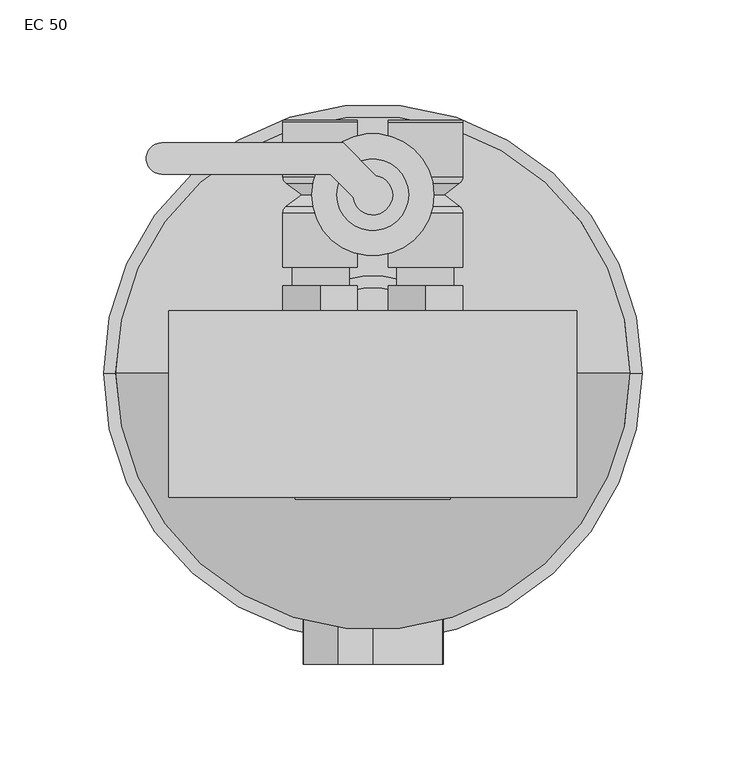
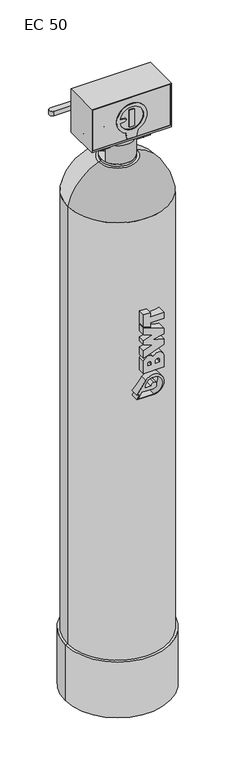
"""IFC4 building model written with IfcOpenShell, lengths in millimetres: flow terminal geometry, BWT_EC : EC 50."""

from ifc_helpers import new_model, si_unit, point, frame, frame_2d, origin, place, context, project, spatial, polyline, circle_curve, ellipse_curve, trimmed, segment, composite_curve, outline, extrude, faceted_brep, source, transform, mapped, element, save
from ifc_brep_helpers import plane_surface, cylinder_surface, revolved_surface, advanced_brep


def ec_50_949c9934(model_context):
    return source(origin(), model_context, "Body", "SolidModel", [
        advanced_brep(
        [(-25.4198693, 51.0, 1413.3500273), (-43.4198693, 51.0, 1413.3500273), (-7.4198693, 51.0, 1413.3500273), (-7.4198693, 94.749277, 1413.3500273), (-43.4198693, 94.749277, 1413.3500273), (-43.4198693, 121.0, 1413.3500273), (-7.4198693, 121.0, 1413.3500273), (-9.0198693, 91.549277, 1413.3500273), (-41.8198693, 91.549277, 1413.3500273), (-16.4189054, 86.0, 1413.3500273), (-34.4208333, 86.0, 1413.3500273), (-9.0198693, 80.450723, 1413.3500273), (-41.8198693, 80.450723, 1413.3500273), (-7.4198693, 77.250723, 1413.3500273), (-43.4198693, 77.250723, 1413.3500273), (-43.4198693, 122.0, 1413.3500273), (-7.4198693, 122.0, 1413.3500273)],
        [
            (0, 1),
            (1, 2, circle_curve(frame((-25.4198693, 51.0, 1413.3500273), z_axis=(0.0, -1.0, 0.0), x_axis=(-1.0, 0.0, 0.0)), 18.0)),
            (2, 0),
            (2, 1, circle_curve(frame((-25.4198693, 51.0, 1413.3500273), z_axis=(0.0, -1.0, 0.0), x_axis=(-1.0, 0.0, 0.0)), 18.0)),
            (3, 4, circle_curve(frame((-25.4198693, 94.749277, 1413.3500273), z_axis=(0.0, 1.0, 0.0), x_axis=(-1.0, 0.0, 0.0)), 18.0)),
            (4, 5),
            (5, 6, circle_curve(frame((-25.4198693, 121.0, 1413.3500273), z_axis=(0.0, -1.0, 0.0), x_axis=(-1.0, 0.0, 0.0)), 18.0)),
            (6, 3),
            (4, 3, circle_curve(frame((-25.4198693, 94.749277, 1413.3500273), z_axis=(0.0, 1.0, 0.0), x_axis=(-1.0, 0.0, 0.0)), 18.0)),
            (6, 5, circle_curve(frame((-25.4198693, 121.0, 1413.3500273), z_axis=(0.0, -1.0, 0.0), x_axis=(-1.0, 0.0, 0.0)), 18.0)),
            (3, 7, circle_curve(frame((-11.4198693, 94.749277, 1413.3500273), z_axis=(0.0, 0.0, -1.0), x_axis=(-1.0, 0.0, 0.0)), 4.0)),
            (7, 8, circle_curve(frame((-25.4198693, 91.549277, 1413.3500273), z_axis=(0.0, 1.0, 0.0), x_axis=(-1.0, 0.0, 0.0)), 16.4)),
            (8, 4, circle_curve(frame((-39.4198693, 94.749277, 1413.3500273), z_axis=(0.0, 0.0, -1.0), x_axis=(1.0, 0.0, 0.0)), 4.0)),
            (8, 7, circle_curve(frame((-25.4198693, 91.549277, 1413.3500273), z_axis=(0.0, 1.0, 0.0), x_axis=(-1.0, 0.0, 0.0)), 16.4)),
            (7, 9),
            (9, 10, circle_curve(frame((-25.4198693, 86.0, 1413.3500273), z_axis=(0.0, 1.0, 0.0), x_axis=(-1.0, 0.0, 0.0)), 9.000964)),
            (10, 8),
            (10, 9, circle_curve(frame((-25.4198693, 86.0, 1413.3500273), z_axis=(0.0, 1.0, 0.0), x_axis=(-1.0, 0.0, 0.0)), 9.000964)),
            (9, 11),
            (11, 12, circle_curve(frame((-25.4198693, 80.450723, 1413.3500273), z_axis=(0.0, 1.0, 0.0), x_axis=(-1.0, 0.0, 0.0)), 16.4)),
            (12, 10),
            (12, 11, circle_curve(frame((-25.4198693, 80.450723, 1413.3500273), z_axis=(0.0, 1.0, 0.0), x_axis=(-1.0, 0.0, 0.0)), 16.4)),
            (11, 13, circle_curve(frame((-11.4198693, 77.250723, 1413.3500273), z_axis=(0.0, 0.0, -1.0), x_axis=(-1.0, 0.0, 0.0)), 4.0)),
            (13, 14, circle_curve(frame((-25.4198693, 77.250723, 1413.3500273), z_axis=(0.0, 1.0, 0.0), x_axis=(-1.0, 0.0, 0.0)), 18.0)),
            (14, 12, circle_curve(frame((-39.4198693, 77.250723, 1413.3500273), z_axis=(0.0, 0.0, -1.0), x_axis=(1.0, 0.0, 0.0)), 4.0)),
            (14, 13, circle_curve(frame((-25.4198693, 77.250723, 1413.3500273), z_axis=(0.0, 1.0, 0.0), x_axis=(-1.0, 0.0, 0.0)), 18.0)),
            (1, 14),
            (13, 2),
            (15, 16, circle_curve(frame((-25.4198693, 122.0, 1413.3500273), z_axis=(0.0, 1.0, 0.0), x_axis=(-1.0, 0.0, 0.0)), 18.0)),
            (16, 15, circle_curve(frame((-25.4198693, 122.0, 1413.3500273), z_axis=(0.0, 1.0, 0.0), x_axis=(-1.0, 0.0, 0.0)), 18.0)),
            (15, 5),
            (6, 16),
        ],
        [
            plane_surface(frame((-25.4198693, 51.0, 1413.3500273), z_axis=(0.0, -1.0, 0.0), x_axis=(-1.0, 0.0, 0.0))),
            cylinder_surface(frame((-25.4198693, 152.9623853, 1413.3500273), z_axis=(0.0, -1.0, 0.0), x_axis=(-1.0, 0.0, 0.0)), 18.0),
            revolved_surface(trimmed(ellipse_curve(frame((-39.4198693, 94.749277, 1413.3500273), z_axis=(0.0, 0.0, 1.0), x_axis=(1.0, 0.0, 0.0)), 4.0, 4.0), [point((-43.4198693, 94.749277, 1413.3500273))], [point((-41.8198693, 91.549277, 1413.3500273))], True, "CARTESIAN"), (-25.4198693, 152.9623853, 1413.3500273), (0.0, -1.0, 0.0)),
            revolved_surface(polyline([(-41.8198693, 91.549277, 1413.3500273), (-34.4208333, 86.0, 1413.3500273)]), (-25.4198693, 152.9623853, 1413.3500273), (0.0, -1.0, 0.0)),
            revolved_surface(polyline([(-34.4208333, 86.0, 1413.3500273), (-41.8198693, 80.450723, 1413.3500273)]), (-25.4198693, 152.9623853, 1413.3500273), (0.0, -1.0, 0.0)),
            revolved_surface(trimmed(ellipse_curve(frame((-39.4198693, 77.250723, 1413.3500273), z_axis=(0.0, 0.0, 1.0), x_axis=(1.0, 0.0, 0.0)), 4.0, 4.0), [point((-41.8198693, 80.450723, 1413.3500273))], [point((-43.4198693, 77.250723, 1413.3500273))], True, "CARTESIAN"), (-25.4198693, 152.9623853, 1413.3500273), (0.0, -1.0, 0.0)),
            plane_surface(frame((-43.4198693, 122.0, 1413.3500273), z_axis=(0.0, 1.0, 0.0), x_axis=(0.0, 0.0, 1.0))),
            cylinder_surface(frame((-25.4198693, 121.0, 1413.3500273), z_axis=(0.0, 1.0, 0.0), x_axis=(-1.0, 0.0, 0.0)), 18.0),
        ],
        [
            (0, [[1, 2, 3]]),
            (0, [[-1, -3, 4]]),
            (1, [[5, 6, 7, 8]]),
            (1, [[-6, 9, -8, 10]]),
            (2, [[-5, 11, 12, 13]]),
            (2, [[-9, -13, 14, -11]]),
            (3, [[-12, 15, 16, 17]]),
            (3, [[-14, -17, 18, -15]]),
            (4, [[-16, 19, 20, 21]]),
            (4, [[-18, -21, 22, -19]]),
            (5, [[-20, 23, 24, 25]]),
            (5, [[-22, -25, 26, -23]]),
            (1, [[-2, 27, -24, 28]]),
            (1, [[-4, -28, -26, -27]]),
            (6, [[29, 30]]),
            (7, [[-29, 31, -10, 32]]),
            (7, [[-30, -32, -7, -31]]),
        ],
    ),
        advanced_brep(
        [(7.3803067, 122.0, 1413.3500273), (43.3803067, 122.0, 1413.3500273), (7.3803067, 121.0, 1413.3500273), (43.3803067, 121.0, 1413.3500273), (25.3803067, 51.0, 1413.3500273), (7.3803067, 51.0, 1413.3500273), (43.3803067, 51.0, 1413.3500273), (43.3803067, 94.749277, 1413.3500273), (7.3803067, 94.749277, 1413.3500273), (41.7803067, 91.549277, 1413.3500273), (8.9803067, 91.549277, 1413.3500273), (34.3812707, 86.0, 1413.3500273), (16.3793427, 86.0, 1413.3500273), (41.7803067, 80.450723, 1413.3500273), (8.9803067, 80.450723, 1413.3500273), (43.3803067, 77.250723, 1413.3500273), (7.3803067, 77.250723, 1413.3500273)],
        [
            (0, 1, circle_curve(frame((25.3803067, 122.0, 1413.3500273), z_axis=(0.0, 1.0, 0.0), x_axis=(-1.0, 0.0, 0.0)), 18.0)),
            (1, 0, circle_curve(frame((25.3803067, 122.0, 1413.3500273), z_axis=(0.0, 1.0, 0.0), x_axis=(-1.0, 0.0, 0.0)), 18.0)),
            (0, 2),
            (2, 3, circle_curve(frame((25.3803067, 121.0, 1413.3500273), z_axis=(0.0, 1.0, 0.0), x_axis=(-1.0, 0.0, 0.0)), 18.0)),
            (3, 1),
            (3, 2, circle_curve(frame((25.3803067, 121.0, 1413.3500273), z_axis=(0.0, 1.0, 0.0), x_axis=(-1.0, 0.0, 0.0)), 18.0)),
            (4, 5),
            (5, 6, circle_curve(frame((25.3803067, 51.0, 1413.3500273), z_axis=(0.0, -1.0, 0.0), x_axis=(-1.0, 0.0, 0.0)), 18.0)),
            (6, 4),
            (6, 5, circle_curve(frame((25.3803067, 51.0, 1413.3500273), z_axis=(0.0, -1.0, 0.0), x_axis=(-1.0, 0.0, 0.0)), 18.0)),
            (7, 8, circle_curve(frame((25.3803067, 94.749277, 1413.3500273), z_axis=(0.0, 1.0, 0.0), x_axis=(-1.0, 0.0, 0.0)), 18.0)),
            (8, 2),
            (3, 7),
            (8, 7, circle_curve(frame((25.3803067, 94.749277, 1413.3500273), z_axis=(0.0, 1.0, 0.0), x_axis=(-1.0, 0.0, 0.0)), 18.0)),
            (7, 9, circle_curve(frame((39.3803067, 94.749277, 1413.3500273), z_axis=(0.0, 0.0, -1.0), x_axis=(-1.0, 0.0, 0.0)), 4.0)),
            (9, 10, circle_curve(frame((25.3803067, 91.549277, 1413.3500273), z_axis=(0.0, 1.0, 0.0), x_axis=(-1.0, 0.0, 0.0)), 16.4)),
            (10, 8, circle_curve(frame((11.3803067, 94.749277, 1413.3500273), z_axis=(0.0, 0.0, -1.0), x_axis=(1.0, 0.0, 0.0)), 4.0)),
            (10, 9, circle_curve(frame((25.3803067, 91.549277, 1413.3500273), z_axis=(0.0, 1.0, 0.0), x_axis=(-1.0, 0.0, 0.0)), 16.4)),
            (9, 11),
            (11, 12, circle_curve(frame((25.3803067, 86.0, 1413.3500273), z_axis=(0.0, 1.0, 0.0), x_axis=(-1.0, 0.0, 0.0)), 9.000964)),
            (12, 10),
            (12, 11, circle_curve(frame((25.3803067, 86.0, 1413.3500273), z_axis=(0.0, 1.0, 0.0), x_axis=(-1.0, 0.0, 0.0)), 9.000964)),
            (11, 13),
            (13, 14, circle_curve(frame((25.3803067, 80.450723, 1413.3500273), z_axis=(0.0, 1.0, 0.0), x_axis=(-1.0, 0.0, 0.0)), 16.4)),
            (14, 12),
            (14, 13, circle_curve(frame((25.3803067, 80.450723, 1413.3500273), z_axis=(0.0, 1.0, 0.0), x_axis=(-1.0, 0.0, 0.0)), 16.4)),
            (13, 15, circle_curve(frame((39.3803067, 77.250723, 1413.3500273), z_axis=(0.0, 0.0, -1.0), x_axis=(-1.0, 0.0, 0.0)), 4.0)),
            (15, 16, circle_curve(frame((25.3803067, 77.250723, 1413.3500273), z_axis=(0.0, 1.0, 0.0), x_axis=(-1.0, 0.0, 0.0)), 18.0)),
            (16, 14, circle_curve(frame((11.3803067, 77.250723, 1413.3500273), z_axis=(0.0, 0.0, -1.0), x_axis=(1.0, 0.0, 0.0)), 4.0)),
            (16, 15, circle_curve(frame((25.3803067, 77.250723, 1413.3500273), z_axis=(0.0, 1.0, 0.0), x_axis=(-1.0, 0.0, 0.0)), 18.0)),
            (5, 16),
            (15, 6),
        ],
        [
            plane_surface(frame((-43.4198693, 122.0, 1413.3500273), z_axis=(0.0, 1.0, 0.0), x_axis=(0.0, 0.0, 1.0))),
            cylinder_surface(frame((25.3803067, 121.0, 1413.3500273), z_axis=(0.0, 1.0, 0.0), x_axis=(-1.0, 0.0, 0.0)), 18.0),
            plane_surface(frame((25.3803067, 51.0, 1413.3500273), z_axis=(0.0, -1.0, 0.0), x_axis=(-1.0, 0.0, 0.0))),
            cylinder_surface(frame((25.3803067, 152.9623853, 1413.3500273), z_axis=(0.0, -1.0, 0.0), x_axis=(-1.0, 0.0, 0.0)), 18.0),
            revolved_surface(trimmed(ellipse_curve(frame((11.3803067, 94.749277, 1413.3500273), z_axis=(0.0, 0.0, 1.0), x_axis=(1.0, 0.0, 0.0)), 4.0, 4.0), [point((7.3803067, 94.749277, 1413.3500273))], [point((8.9803067, 91.549277, 1413.3500273))], True, "CARTESIAN"), (25.3803067, 152.9623853, 1413.3500273), (0.0, -1.0, 0.0)),
            revolved_surface(polyline([(8.9803067, 91.549277, 1413.3500273), (16.3793427, 86.0, 1413.3500273)]), (25.3803067, 152.9623853, 1413.3500273), (0.0, -1.0, 0.0)),
            revolved_surface(polyline([(16.3793427, 86.0, 1413.3500273), (8.9803067, 80.450723, 1413.3500273)]), (25.3803067, 152.9623853, 1413.3500273), (0.0, -1.0, 0.0)),
            revolved_surface(trimmed(ellipse_curve(frame((11.3803067, 77.250723, 1413.3500273), z_axis=(0.0, 0.0, 1.0), x_axis=(1.0, 0.0, 0.0)), 4.0, 4.0), [point((8.9803067, 80.450723, 1413.3500273))], [point((7.3803067, 77.250723, 1413.3500273))], True, "CARTESIAN"), (25.3803067, 152.9623853, 1413.3500273), (0.0, -1.0, 0.0)),
        ],
        [
            (0, [[1, 2]]),
            (1, [[-1, 3, 4, 5]]),
            (1, [[-2, -5, 6, -3]]),
            (2, [[7, 8, 9]]),
            (2, [[-7, -9, 10]]),
            (3, [[11, 12, -6, 13]]),
            (3, [[-12, 14, -13, -4]]),
            (4, [[-11, 15, 16, 17]]),
            (4, [[-14, -17, 18, -15]]),
            (5, [[-16, 19, 20, 21]]),
            (5, [[-18, -21, 22, -19]]),
            (6, [[-20, 23, 24, 25]]),
            (6, [[-22, -25, 26, -23]]),
            (7, [[-24, 27, 28, 29]]),
            (7, [[-26, -29, 30, -27]]),
            (3, [[-8, 31, -28, 32]]),
            (3, [[-10, -32, -30, -31]]),
        ],
    ),
        extrude(outline(polyline([(96.2035118, -58.8371146), (-95.5486478, -58.8371146), (-95.5486478, -54.8371146), (96.2035118, -54.8371146), (96.2035118, -58.8371146)])), frame((0.0, 0.0, 1460.7939903), z_axis=(0.0, 0.0, 1.0), x_axis=(1.0, 0.0, 0.0)), (0.0, 0.0, 1.0), 106.7326791),
        extrude(outline(polyline([(12.4852191, 1452.6531008), (15.7188089, 1448.1206461), (13.4103829, 1443.0540479), (7.868367, 1442.5199043), (4.6347772, 1447.052359), (6.9432033, 1452.1189573), (12.4852191, 1452.6531008)])), frame((61.9425108, 0.0, 0.0), z_axis=(1.0, 0.0, 0.0), x_axis=(0.0, 1.0, 0.0)), (0.0, 0.0, 1.0), 8.5574892),
        advanced_brep(
        [(33.3436037, 10.077573, 1447.5846012), (33.3436037, 10.077573, 1456.2365171), (33.3436037, 10.077573, 1438.9326853), (61.9425108, 10.077573, 1438.9326853), (61.9425108, 10.077573, 1456.2365171), (61.9425108, 10.077573, 1447.5846012)],
        [
            (0, 1),
            (1, 2, circle_curve(frame((33.3436037, 10.077573, 1447.5846012), z_axis=(-1.0, 0.0, 0.0), x_axis=(0.0, 0.0, 1.0)), 8.6519159)),
            (2, 0),
            (2, 1, circle_curve(frame((33.3436037, 10.077573, 1447.5846012), z_axis=(-1.0, 0.0, 0.0), x_axis=(0.0, 0.0, 1.0)), 8.6519159)),
            (3, 4, circle_curve(frame((61.9425108, 10.077573, 1447.5846012), z_axis=(1.0, 0.0, 0.0), x_axis=(0.0, 0.0, 1.0)), 8.6519159)),
            (4, 5),
            (5, 3),
            (4, 3, circle_curve(frame((61.9425108, 10.077573, 1447.5846012), z_axis=(1.0, 0.0, 0.0), x_axis=(0.0, 0.0, 1.0)), 8.6519159)),
            (1, 4),
            (3, 2),
        ],
        [
            plane_surface(frame((33.3436037, 10.077573, 1447.5846012), z_axis=(-1.0, 0.0, 0.0), x_axis=(0.0, 0.0, 1.0))),
            plane_surface(frame((61.9425108, 10.077573, 1447.5846012), z_axis=(1.0, 0.0, 0.0), x_axis=(0.0, 0.0, 1.0))),
            cylinder_surface(frame((49.1268561, 10.077573, 1447.5846012), z_axis=(-1.0, 0.0, 0.0), x_axis=(0.0, 0.0, 1.0)), 8.6519159),
        ],
        [
            (0, [[1, 2, 3]]),
            (0, [[-3, 4, -1]]),
            (1, [[5, 6, 7]]),
            (1, [[8, -7, -6]]),
            (2, [[-2, 9, -5, 10]]),
            (2, [[-4, -10, -8, -9]]),
        ],
    ),
        advanced_brep(
        [(16.2211812, 10.077573, 1447.5846012), (16.2211812, 10.077573, 1452.5240423), (16.2211812, 10.077573, 1442.6451601), (33.3436037, 10.077573, 1442.6451601), (33.3436037, 10.077573, 1452.5240423), (33.3436037, 10.077573, 1447.5846012)],
        [
            (0, 1),
            (1, 2, circle_curve(frame((16.2211812, 10.077573, 1447.5846012), z_axis=(-1.0, 0.0, 0.0), x_axis=(0.0, 0.0, 1.0)), 4.9394411)),
            (2, 0),
            (2, 1, circle_curve(frame((16.2211812, 10.077573, 1447.5846012), z_axis=(-1.0, 0.0, 0.0), x_axis=(0.0, 0.0, 1.0)), 4.9394411)),
            (3, 4, circle_curve(frame((33.3436037, 10.077573, 1447.5846012), z_axis=(1.0, 0.0, 0.0), x_axis=(0.0, 0.0, 1.0)), 4.9394411)),
            (4, 5),
            (5, 3),
            (4, 3, circle_curve(frame((33.3436037, 10.077573, 1447.5846012), z_axis=(1.0, 0.0, 0.0), x_axis=(0.0, 0.0, 1.0)), 4.9394411)),
            (1, 4),
            (3, 2),
        ],
        [
            plane_surface(frame((16.2211812, 10.077573, 1447.5846012), z_axis=(-1.0, 0.0, 0.0), x_axis=(0.0, 0.0, 1.0))),
            plane_surface(frame((33.3436037, 10.077573, 1447.5846012), z_axis=(1.0, 0.0, 0.0), x_axis=(0.0, 0.0, 1.0))),
            cylinder_surface(frame((15.7194931, 10.077573, 1447.5846012), z_axis=(-1.0, 0.0, 0.0), x_axis=(0.0, 0.0, 1.0)), 4.9394411),
        ],
        [
            (0, [[1, 2, 3]]),
            (0, [[-3, 4, -1]]),
            (1, [[5, 6, 7]]),
            (1, [[8, -7, -6]]),
            (2, [[-2, 9, -5, 10]]),
            (2, [[-4, -10, -8, -9]]),
        ],
    ),
        extrude(outline(composite_curve([segment(polyline([(1480.0456784, -15.0), (1462.4054042, -11.7297557), (1462.4054042, 11.7297557), (1480.0456784, 15.0)]), True, "CONTINUOUS"), segment(trimmed(circle_curve(frame_2d((1514.4149961, 0.0)), 37.5), [point((1480.0456784, 15.0))], [point((1480.0456784, -15.0))], False, "CARTESIAN"), True, "CONTINUOUS")], self_intersect=False), holes=[composite_curve([segment(trimmed(circle_curve(frame_2d((1514.4149961, 0.0)), 29.0), [point((1540.9939352, 11.6))], [point((1487.8360571, 11.6))], True, "CARTESIAN"), True, "CONTINUOUS"), segment(trimmed(circle_curve(frame_2d((1514.4149961, 0.0)), 29.0), [point((1487.8360571, 11.6))], [point((1487.8360571, -11.6))], True, "CARTESIAN"), True, "CONTINUOUS"), segment(trimmed(circle_curve(frame_2d((1514.4149961, 0.0)), 29.0), [point((1487.8360571, -11.6))], [point((1508.7488042, -28.4410666))], True, "CARTESIAN"), True, "CONTINUOUS"), segment(polyline([(1508.7488042, -28.4410666), (1510.4149961, -17.2034068)]), True, "CONTINUOUS"), segment(trimmed(circle_curve(frame_2d((1514.4149961, -17.2034068)), 4.0), [point((1510.4149961, -17.2034068))], [point((1518.4149961, -17.2034068))], False, "CARTESIAN"), True, "CONTINUOUS"), segment(polyline([(1518.4149961, -17.2034068), (1520.081188, -28.4410666)]), True, "CONTINUOUS"), segment(trimmed(circle_curve(frame_2d((1514.4149961, 0.0)), 29.0), [point((1520.081188, -28.4410666))], [point((1540.9939352, -11.6))], True, "CARTESIAN"), True, "CONTINUOUS"), segment(trimmed(circle_curve(frame_2d((1514.4149961, 0.0)), 29.0), [point((1540.9939352, -11.6))], [point((1540.9939352, 11.6))], True, "CARTESIAN"), True, "CONTINUOUS")], self_intersect=False)]), frame((0.0, -61.1092325, 0.0), z_axis=(0.0, 1.0, 0.0), x_axis=(0.0, 0.0, 1.0)), (0.0, 0.0, 1.0), 6.272118),
        extrude(outline(composite_curve([segment(trimmed(circle_curve(frame_2d((1514.4149961, 0.0)), 22.5), [point((1536.1002446, 6.0))], [point((1536.1002446, -6.0))], False, "CARTESIAN"), True, "CONTINUOUS"), segment(polyline([(1536.1002446, -6.0), (1492.7297477, -6.0)]), True, "CONTINUOUS"), segment(trimmed(circle_curve(frame_2d((1514.4149961, 0.0)), 22.5), [point((1492.7297477, -6.0))], [point((1492.7297477, 6.0))], False, "CARTESIAN"), True, "CONTINUOUS"), segment(polyline([(1492.7297477, 6.0), (1536.1002446, 6.0)]), True, "CONTINUOUS")], self_intersect=False)), frame((0.0, -61.1092325, 0.0), z_axis=(0.0, 1.0, 0.0), x_axis=(0.0, 0.0, 1.0)), (0.0, 0.0, 1.0), 6.272118),
        faceted_brep([(-98.4688118, -60.0, 1570.0612416), (98.4688118, -60.0, 1570.0612416), (98.4688118, 30.0, 1570.0612416), (-98.4688118, 30.0, 1570.0612416), (-98.4688118, -60.0, 1456.8105054), (-98.4688118, 30.0, 1456.8105054), (98.4688118, 30.0, 1456.8105054), (98.4688118, -60.0, 1456.8105054), (-95.5486478, -60.0, 1567.5266694), (96.2035118, -60.0, 1567.5266694), (96.2035118, -60.0, 1460.7939903), (-95.5486478, -60.0, 1460.7939903), (-95.5486478, -54.8371146, 1567.5266694), (-95.5486478, -54.8371146, 1460.7939903), (96.2035118, -54.8371146, 1460.7939903), (96.2035118, -54.8371146, 1567.5266694)], [[[0, 1, 2, 3]], [[4, 5, 6, 7]], [[1, 0, 4, 7], [8, 9, 10, 11]], [[2, 1, 7, 6]], [[3, 2, 6, 5]], [[0, 3, 5, 4]], [[12, 13, 14, 15]], [[12, 15, 9, 8]], [[15, 14, 10, 9]], [[14, 13, 11, 10]], [[13, 12, 8, 11]]]),
        extrude(outline(composite_curve([segment(polyline([(10.077573, 1422.5580398), (3.6925169, 1416.1729837), (-13.5373709, 1416.1729837), (-19.922427, 1422.5580398)]), True, "CONTINUOUS"), segment(trimmed(circle_curve(frame_2d((-19.922427, 1427.4974809)), 4.9394411), [point((-19.922427, 1422.5580398))], [point((-19.922427, 1432.436922))], False, "CARTESIAN"), True, "CONTINUOUS"), segment(polyline([(-19.922427, 1432.436922), (-13.5373709, 1438.8219781), (3.6925169, 1438.8219781), (10.077573, 1432.436922)]), True, "CONTINUOUS"), segment(trimmed(circle_curve(frame_2d((10.077573, 1427.4974809)), 4.9394411), [point((10.077573, 1432.436922))], [point((10.077573, 1422.5580398))], False, "CARTESIAN"), True, "CONTINUOUS")], self_intersect=False)), frame((49.3489527, 0.0, 0.0), z_axis=(1.0, 0.0, 0.0), x_axis=(0.0, 1.0, 0.0)), (0.0, 0.0, 1.0), 18.1723162),
        extrude(outline(composite_curve([segment(trimmed(circle_curve(frame_2d((1413.29, -25.2442723)), 13.75), [point((1413.29, -11.4942723))], [point((1413.29, -38.9942723))], False, "CARTESIAN"), True, "CONTINUOUS"), segment(trimmed(circle_curve(frame_2d((1413.29, -25.2442723)), 13.75), [point((1413.29, -38.9942723))], [point((1413.29, -11.4942723))], False, "CARTESIAN"), True, "CONTINUOUS")], self_intersect=False)), frame((0.0, 42.0, 0.0), z_axis=(0.0, 1.0, 0.0), x_axis=(0.0, 0.0, 1.0)), (0.0, 0.0, 1.0), 9.0),
        advanced_brep(
        [(16.2211812, 10.077573, 1427.4974809), (16.2211812, 10.077573, 1432.436922), (16.2211812, 10.077573, 1422.5580398), (49.3489527, 10.077573, 1422.5580398), (49.3489527, 10.077573, 1432.436922), (49.3489527, 10.077573, 1427.4974809)],
        [
            (0, 1),
            (1, 2, circle_curve(frame((16.2211812, 10.077573, 1427.4974809), z_axis=(-1.0, 0.0, 0.0), x_axis=(0.0, 0.0, 1.0)), 4.9394411)),
            (2, 0),
            (2, 1, circle_curve(frame((16.2211812, 10.077573, 1427.4974809), z_axis=(-1.0, 0.0, 0.0), x_axis=(0.0, 0.0, 1.0)), 4.9394411)),
            (3, 4, circle_curve(frame((49.3489527, 10.077573, 1427.4974809), z_axis=(1.0, 0.0, 0.0), x_axis=(0.0, 0.0, 1.0)), 4.9394411)),
            (4, 5),
            (5, 3),
            (4, 3, circle_curve(frame((49.3489527, 10.077573, 1427.4974809), z_axis=(1.0, 0.0, 0.0), x_axis=(0.0, 0.0, 1.0)), 4.9394411)),
            (1, 4),
            (3, 2),
        ],
        [
            plane_surface(frame((16.2211812, 10.077573, 1427.4974809), z_axis=(-1.0, 0.0, 0.0), x_axis=(0.0, 0.0, 1.0))),
            plane_surface(frame((49.3489527, 10.077573, 1427.4974809), z_axis=(1.0, 0.0, 0.0), x_axis=(0.0, 0.0, 1.0))),
            cylinder_surface(frame((15.7194931, 10.077573, 1427.4974809), z_axis=(-1.0, 0.0, 0.0), x_axis=(0.0, 0.0, 1.0)), 4.9394411),
        ],
        [
            (0, [[1, 2, 3]]),
            (0, [[-3, 4, -1]]),
            (1, [[5, 6, 7]]),
            (1, [[8, -7, -6]]),
            (2, [[-2, 9, -5, 10]]),
            (2, [[-4, -10, -8, -9]]),
        ],
    ),
        extrude(outline(composite_curve([segment(trimmed(circle_curve(frame_2d((1413.29, 25.2244777)), 13.75), [point((1413.29, 38.9744777))], [point((1413.29, 11.4744777))], False, "CARTESIAN"), True, "CONTINUOUS"), segment(trimmed(circle_curve(frame_2d((1413.29, 25.2244777)), 13.75), [point((1413.29, 11.4744777))], [point((1413.29, 38.9744777))], False, "CARTESIAN"), True, "CONTINUOUS")], self_intersect=False)), frame((0.0, 42.0, 0.0), z_axis=(0.0, 1.0, 0.0), x_axis=(0.0, 0.0, 1.0)), (0.0, 0.0, 1.0), 9.0),
        advanced_brep(
        [(16.2211812, -19.922427, 1427.4974809), (16.2211812, -19.922427, 1432.436922), (16.2211812, -19.922427, 1422.5580398), (49.3489527, -19.922427, 1422.5580398), (49.3489527, -19.922427, 1432.436922), (49.3489527, -19.922427, 1427.4974809)],
        [
            (0, 1),
            (1, 2, circle_curve(frame((16.2211812, -19.922427, 1427.4974809), z_axis=(-1.0, 0.0, 0.0), x_axis=(0.0, 0.0, 1.0)), 4.9394411)),
            (2, 0),
            (2, 1, circle_curve(frame((16.2211812, -19.922427, 1427.4974809), z_axis=(-1.0, 0.0, 0.0), x_axis=(0.0, 0.0, 1.0)), 4.9394411)),
            (3, 4, circle_curve(frame((49.3489527, -19.922427, 1427.4974809), z_axis=(1.0, 0.0, 0.0), x_axis=(0.0, 0.0, 1.0)), 4.9394411)),
            (4, 5),
            (5, 3),
            (4, 3, circle_curve(frame((49.3489527, -19.922427, 1427.4974809), z_axis=(1.0, 0.0, 0.0), x_axis=(0.0, 0.0, 1.0)), 4.9394411)),
            (1, 4),
            (3, 2),
        ],
        [
            plane_surface(frame((16.2211812, -19.922427, 1427.4974809), z_axis=(-1.0, 0.0, 0.0), x_axis=(0.0, 0.0, 1.0))),
            plane_surface(frame((49.3489527, -19.922427, 1427.4974809), z_axis=(1.0, 0.0, 0.0), x_axis=(0.0, 0.0, 1.0))),
            cylinder_surface(frame((15.7194931, -19.922427, 1427.4974809), z_axis=(-1.0, 0.0, 0.0), x_axis=(0.0, 0.0, 1.0)), 4.9394411),
        ],
        [
            (0, [[1, 2, 3]]),
            (0, [[-3, 4, -1]]),
            (1, [[5, 6, 7]]),
            (1, [[8, -7, -6]]),
            (2, [[-2, 9, -5, 10]]),
            (2, [[-4, -10, -8, -9]]),
        ],
    ),
        extrude(outline(polyline([(-9.236693, 1418.6097607), (-5.3893163, 1427.0540912), (3.8473767, 1427.9443304), (9.236693, 1420.3902393), (5.3893163, 1411.9459088), (-3.8473767, 1411.0556696), (-9.236693, 1418.6097607)])), frame((-49.5, 0.0, 0.0), z_axis=(1.0, 0.0, 0.0), x_axis=(0.0, 1.0, 0.0)), (0.0, 0.0, 1.0), 4.5818966),
        advanced_brep(
        [(-44.9181034, 0.0, 1419.5), (-44.9181034, 0.0, 1430.25), (-44.9181034, 0.0, 1408.75), (-23.5189903, 0.0, 1408.75), (-23.5189903, 0.0, 1430.25), (-23.5189903, 0.0, 1419.5)],
        [
            (0, 1),
            (1, 2, circle_curve(frame((-44.9181034, 0.0, 1419.5), z_axis=(-1.0, 0.0, 0.0), x_axis=(0.0, 0.0, 1.0)), 10.75)),
            (2, 0),
            (2, 1, circle_curve(frame((-44.9181034, 0.0, 1419.5), z_axis=(-1.0, 0.0, 0.0), x_axis=(0.0, 0.0, 1.0)), 10.75)),
            (3, 4, circle_curve(frame((-23.5189903, 0.0, 1419.5), z_axis=(1.0, 0.0, 0.0), x_axis=(0.0, 0.0, 1.0)), 10.75)),
            (4, 5),
            (5, 3),
            (4, 3, circle_curve(frame((-23.5189903, 0.0, 1419.5), z_axis=(1.0, 0.0, 0.0), x_axis=(0.0, 0.0, 1.0)), 10.75)),
            (1, 4),
            (3, 2),
        ],
        [
            plane_surface(frame((-44.9181034, 0.0, 1419.5), z_axis=(-1.0, 0.0, 0.0), x_axis=(0.0, 0.0, 1.0))),
            plane_surface(frame((-23.5189903, 0.0, 1419.5), z_axis=(1.0, 0.0, 0.0), x_axis=(0.0, 0.0, 1.0))),
            cylinder_surface(frame((-54.704096, 0.0, 1419.5), z_axis=(-1.0, 0.0, 0.0), x_axis=(0.0, 0.0, 1.0)), 10.75),
        ],
        [
            (0, [[1, 2, 3]]),
            (0, [[-3, 4, -1]]),
            (1, [[5, 6, 7]]),
            (1, [[8, -7, -6]]),
            (2, [[-2, 9, -5, 10]]),
            (2, [[-4, -10, -8, -9]]),
        ],
    ),
        advanced_brep(
        [(25.4, 0.0, 1423.1171182), (25.4, 0.0, 1403.4628818), (25.4, 0.0, 1413.29), (25.4, 4.1055728, 1428.0364678), (25.4, 4.1055728, 1398.5435322), (25.4, 22.0, 1431.29), (25.4, 22.0, 1395.29), (25.4, 42.0, 1431.29), (25.4, 42.0, 1395.29), (25.4, 42.0, 1413.29)],
        [
            (0, 1, circle_curve(frame((25.4, 0.0, 1413.29), z_axis=(0.0, -1.0, 0.0), x_axis=(0.0, 0.0, -1.0)), 9.8271182)),
            (1, 2),
            (2, 0),
            (1, 0, circle_curve(frame((25.4, 0.0, 1413.29), z_axis=(0.0, -1.0, 0.0), x_axis=(0.0, 0.0, -1.0)), 9.8271182)),
            (3, 4, circle_curve(frame((25.4, 4.1055728, 1413.29), z_axis=(0.0, -1.0, 0.0), x_axis=(0.0, 0.0, -1.0)), 14.7464678)),
            (4, 1, circle_curve(frame((25.4, 5.0, 1403.4628818), z_axis=(-1.0, 0.0, 0.0), x_axis=(0.0, -1.0, 0.0)), 5.0)),
            (0, 3, circle_curve(frame((25.4, 5.0, 1423.1171182), z_axis=(-1.0, 0.0, 0.0), x_axis=(0.0, -1.0, 0.0)), 5.0)),
            (4, 3, circle_curve(frame((25.4, 4.1055728, 1413.29), z_axis=(0.0, -1.0, 0.0), x_axis=(0.0, 0.0, -1.0)), 14.7464678)),
            (5, 6, circle_curve(frame((25.4, 22.0, 1413.29), z_axis=(0.0, -1.0, 0.0), x_axis=(0.0, 0.0, -1.0)), 18.0)),
            (6, 4),
            (3, 5),
            (6, 5, circle_curve(frame((25.4, 22.0, 1413.29), z_axis=(0.0, -1.0, 0.0), x_axis=(0.0, 0.0, -1.0)), 18.0)),
            (7, 8, circle_curve(frame((25.4, 42.0, 1413.29), z_axis=(0.0, -1.0, 0.0), x_axis=(0.0, 0.0, -1.0)), 18.0)),
            (8, 6),
            (5, 7),
            (8, 7, circle_curve(frame((25.4, 42.0, 1413.29), z_axis=(0.0, -1.0, 0.0), x_axis=(0.0, 0.0, -1.0)), 18.0)),
            (9, 8),
            (7, 9),
        ],
        [
            plane_surface(frame((25.4, 0.0, 1413.29), z_axis=(0.0, -1.0, 0.0), x_axis=(0.0, 0.0, -1.0))),
            revolved_surface(trimmed(ellipse_curve(frame((25.4, 5.0, 1403.4628818), z_axis=(1.0, 0.0, 0.0), x_axis=(0.0, -1.0, 0.0)), 5.0, 5.0), [point((25.4, 0.0, 1403.4628818))], [point((25.4, 4.1055728, 1398.5435322))], True, "CARTESIAN"), (25.4, 0.0, 1413.29), (0.0, 1.0, 0.0)),
            revolved_surface(polyline([(25.4, 4.1055728, 1398.5435322), (25.4, 22.0, 1395.29)]), (25.4, 0.0, 1413.29), (0.0, 1.0, 0.0)),
            cylinder_surface(frame((25.4, 0.0, 1413.29), z_axis=(0.0, 1.0, 0.0), x_axis=(0.0, 0.0, -1.0)), 18.0),
            plane_surface(frame((25.4, 42.0, 1413.29), z_axis=(0.0, 1.0, 0.0), x_axis=(0.0, 0.0, -1.0))),
        ],
        [
            (0, [[1, 2, 3]]),
            (0, [[4, -3, -2]]),
            (1, [[5, 6, -1, 7]]),
            (1, [[8, -7, -4, -6]]),
            (2, [[9, 10, -5, 11]]),
            (2, [[12, -11, -8, -10]]),
            (3, [[13, 14, -9, 15]]),
            (3, [[16, -15, -12, -14]]),
            (4, [[17, -13, 18]]),
            (4, [[-18, -16, -17]]),
        ],
    ),
        advanced_brep(
        [(-25.4798264, 0.0, 1423.1171182), (-25.4798264, 0.0, 1403.4628818), (-25.4798264, 0.0, 1413.29), (-25.4798264, 4.1055728, 1428.0364678), (-25.4798264, 4.1055728, 1398.5435322), (-25.4798264, 22.0, 1431.29), (-25.4798264, 22.0, 1395.29), (-25.4798264, 42.0, 1431.29), (-25.4798264, 42.0, 1395.29), (-25.4798264, 42.0, 1413.29)],
        [
            (0, 1, circle_curve(frame((-25.4798264, 0.0, 1413.29), z_axis=(0.0, -1.0, 0.0), x_axis=(0.0, 0.0, -1.0)), 9.8271182)),
            (1, 2),
            (2, 0),
            (1, 0, circle_curve(frame((-25.4798264, 0.0, 1413.29), z_axis=(0.0, -1.0, 0.0), x_axis=(0.0, 0.0, -1.0)), 9.8271182)),
            (3, 4, circle_curve(frame((-25.4798264, 4.1055728, 1413.29), z_axis=(0.0, -1.0, 0.0), x_axis=(0.0, 0.0, -1.0)), 14.7464678)),
            (4, 1, circle_curve(frame((-25.4798264, 5.0, 1403.4628818), z_axis=(-1.0, 0.0, 0.0), x_axis=(0.0, -1.0, 0.0)), 5.0)),
            (0, 3, circle_curve(frame((-25.4798264, 5.0, 1423.1171182), z_axis=(-1.0, 0.0, 0.0), x_axis=(0.0, -1.0, 0.0)), 5.0)),
            (4, 3, circle_curve(frame((-25.4798264, 4.1055728, 1413.29), z_axis=(0.0, -1.0, 0.0), x_axis=(0.0, 0.0, -1.0)), 14.7464678)),
            (5, 6, circle_curve(frame((-25.4798264, 22.0, 1413.29), z_axis=(0.0, -1.0, 0.0), x_axis=(0.0, 0.0, -1.0)), 18.0)),
            (6, 4),
            (3, 5),
            (6, 5, circle_curve(frame((-25.4798264, 22.0, 1413.29), z_axis=(0.0, -1.0, 0.0), x_axis=(0.0, 0.0, -1.0)), 18.0)),
            (7, 8, circle_curve(frame((-25.4798264, 42.0, 1413.29), z_axis=(0.0, -1.0, 0.0), x_axis=(0.0, 0.0, -1.0)), 18.0)),
            (8, 6),
            (5, 7),
            (8, 7, circle_curve(frame((-25.4798264, 42.0, 1413.29), z_axis=(0.0, -1.0, 0.0), x_axis=(0.0, 0.0, -1.0)), 18.0)),
            (9, 8),
            (7, 9),
        ],
        [
            plane_surface(frame((-25.4798264, 0.0, 1413.29), z_axis=(0.0, -1.0, 0.0), x_axis=(0.0, 0.0, -1.0))),
            revolved_surface(trimmed(ellipse_curve(frame((-25.4798264, 5.0, 1403.4628818), z_axis=(1.0, 0.0, 0.0), x_axis=(0.0, -1.0, 0.0)), 5.0, 5.0), [point((-25.4798264, 0.0, 1403.4628818))], [point((-25.4798264, 4.1055728, 1398.5435322))], True, "CARTESIAN"), (-25.4798264, 0.0, 1413.29), (0.0, 1.0, 0.0)),
            revolved_surface(polyline([(-25.4798264, 4.1055728, 1398.5435322), (-25.4798264, 22.0, 1395.29)]), (-25.4798264, 0.0, 1413.29), (0.0, 1.0, 0.0)),
            cylinder_surface(frame((-25.4798264, 0.0, 1413.29), z_axis=(0.0, 1.0, 0.0), x_axis=(0.0, 0.0, -1.0)), 18.0),
            plane_surface(frame((-25.4798264, 42.0, 1413.29), z_axis=(0.0, 1.0, 0.0), x_axis=(0.0, 0.0, -1.0))),
        ],
        [
            (0, [[1, 2, 3]]),
            (0, [[4, -3, -2]]),
            (1, [[5, 6, -1, 7]]),
            (1, [[8, -7, -4, -6]]),
            (2, [[9, 10, -5, 11]]),
            (2, [[12, -11, -8, -10]]),
            (3, [[13, 14, -9, 15]]),
            (3, [[16, -15, -12, -14]]),
            (4, [[17, -13, 18]]),
            (4, [[-18, -16, -17]]),
        ],
    ),
        advanced_brep(
        [(-101.8933983, 96.0, 1472.29), (-20.6066017, 96.0, 1472.29), (-9.4491479, 84.8425462, 1472.29), (9.4986096, 85.8374721, 1472.29), (1.3684027, 95.238199, 1472.29), (-14.3933983, 111.0, 1472.29), (-101.8933983, 111.0, 1472.29), (-101.8933983, 96.0, 1460.79), (-101.8933983, 111.0, 1460.79), (-14.3933983, 111.0, 1460.79), (1.3684027, 95.238199, 1460.79), (-9.5013904, 85.8374721, 1460.79), (-9.4491479, 84.8425462, 1460.79), (-20.6066017, 96.0, 1460.79), (-9.5013904, 85.8374721, 1448.2898717), (9.4986096, 85.8374721, 1448.2898717)],
        [
            (0, 1),
            (1, 2),
            (2, 3, circle_curve(frame((-0.0013904, 85.8374721, 1472.29), z_axis=(0.0, 0.0, 1.0), x_axis=(1.0, 0.0, 0.0)), 9.5)),
            (3, 4, circle_curve(frame((-0.0013904, 85.8374721, 1472.29), z_axis=(0.0, 0.0, 1.0), x_axis=(1.0, 0.0, 0.0)), 9.5)),
            (4, 5),
            (5, 6),
            (6, 0, circle_curve(frame((-101.8933983, 103.5, 1472.29), z_axis=(0.0, 0.0, 1.0), x_axis=(1.0, 0.0, 0.0)), 7.5)),
            (7, 8, circle_curve(frame((-101.8933983, 103.5, 1460.79), z_axis=(0.0, 0.0, -1.0), x_axis=(1.0, 0.0, 0.0)), 7.5)),
            (8, 9),
            (9, 10),
            (10, 11, circle_curve(frame((-0.0013904, 85.8374721, 1460.79), z_axis=(0.0, 0.0, 1.0), x_axis=(1.0, 0.0, 0.0)), 9.5)),
            (11, 12, circle_curve(frame((-0.0013904, 85.8374721, 1460.79), z_axis=(0.0, 0.0, 1.0), x_axis=(1.0, 0.0, 0.0)), 9.5)),
            (12, 13),
            (13, 7),
            (0, 7),
            (13, 1),
            (12, 2),
            (4, 10),
            (9, 5),
            (8, 6),
            (14, 15, circle_curve(frame((-0.0013904, 85.8374721, 1448.2898717), z_axis=(0.0, 0.0, -1.0), x_axis=(1.0, 0.0, 0.0)), 9.5)),
            (15, 14, circle_curve(frame((-0.0013904, 85.8374721, 1448.2898717), z_axis=(0.0, 0.0, -1.0), x_axis=(1.0, 0.0, 0.0)), 9.5)),
            (15, 3),
            (11, 14),
        ],
        [
            plane_surface(frame((-101.8933983, 96.0, 1472.29), z_axis=(0.0, 0.0, 1.0), x_axis=(1.0, 0.0, 0.0))),
            plane_surface(frame((-101.8933983, 96.0, 1460.79), z_axis=(0.0, 0.0, -1.0), x_axis=(-1.0, 0.0, 0.0))),
            plane_surface(frame((-101.8933983, 96.0, 1472.29), z_axis=(0.0, -1.0, 0.0), x_axis=(0.0, 0.0, -1.0))),
            plane_surface(frame((-20.6066017, 96.0, 1472.29), z_axis=(-0.7071067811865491, -0.707106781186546, 0.0), x_axis=(0.0, 0.0, -1.0))),
            plane_surface(frame((1.3684027, 95.238199, 1472.29), z_axis=(0.7071067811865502, 0.7071067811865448, 0.0), x_axis=(0.0, 0.0, -1.0))),
            plane_surface(frame((-14.3933983, 111.0, 1472.29), z_axis=(0.0, 1.0, 0.0), x_axis=(0.0, 0.0, -1.0))),
            cylinder_surface(frame((-101.8933983, 103.5, 1460.79), z_axis=(0.0, 0.0, 1.0), x_axis=(1.0, 0.0, 0.0)), 7.5),
            plane_surface(frame((9.4986096, 85.8374721, 1448.2898717), z_axis=(0.0, 0.0, -1.0), x_axis=(0.0, -1.0, 0.0))),
            cylinder_surface(frame((-0.0013904, 85.8374721, 1448.2898717), z_axis=(0.0, 0.0, 1.0), x_axis=(1.0, 0.0, 0.0)), 9.5),
        ],
        [
            (0, [[1, 2, 3, 4, 5, 6, 7]]),
            (1, [[8, 9, 10, 11, 12, 13, 14]]),
            (2, [[-1, 15, -14, 16]]),
            (3, [[-2, -16, -13, 17]]),
            (4, [[-5, 18, -10, 19]]),
            (5, [[-6, -19, -9, 20]]),
            (6, [[-7, -20, -8, -15]]),
            (7, [[21, 22]]),
            (8, [[-22, 23, -3, -17, -12, 24]]),
            (8, [[-21, -24, -11, -18, -4, -23]]),
        ],
    ),
        extrude(outline(composite_curve([segment(trimmed(circle_curve(frame_2d((-0.0624721, 86.03125)), 17.3), [point((-17.3624721, 86.03125))], [point((17.2375279, 86.03125))], False, "CARTESIAN"), True, "CONTINUOUS"), segment(trimmed(circle_curve(frame_2d((-0.0624721, 86.03125)), 17.3), [point((17.2375279, 86.03125))], [point((-17.3624721, 86.03125))], False, "CARTESIAN"), True, "CONTINUOUS")], self_intersect=False)), frame((0.0, 0.0, 1434.29), z_axis=(0.0, 0.0, 1.0), x_axis=(1.0, 0.0, 0.0)), (0.0, 0.0, 1.0), 13.9998717),
        extrude(outline(composite_curve([segment(trimmed(circle_curve(frame_2d((0.0, 86.03125)), 29.5), [point((-29.5, 86.03125))], [point((29.5, 86.03125))], False, "CARTESIAN"), True, "CONTINUOUS"), segment(trimmed(circle_curve(frame_2d((0.0, 86.03125)), 29.5), [point((29.5, 86.03125))], [point((-29.5, 86.03125))], False, "CARTESIAN"), True, "CONTINUOUS")], self_intersect=False)), frame((0.0, 0.0, 1392.29), z_axis=(0.0, 0.0, 1.0), x_axis=(1.0, 0.0, 0.0)), (0.0, 0.0, 1.0), 3.0),
        extrude(outline(composite_curve([segment(trimmed(circle_curve(frame_2d((0.0, 86.03125)), 29.5), [point((-29.5, 86.03125))], [point((29.5, 86.03125))], False, "CARTESIAN"), True, "CONTINUOUS"), segment(trimmed(circle_curve(frame_2d((0.0, 86.03125)), 29.5), [point((29.5, 86.03125))], [point((-29.5, 86.03125))], False, "CARTESIAN"), True, "CONTINUOUS")], self_intersect=False)), frame((0.0, 0.0, 1431.29), z_axis=(0.0, 0.0, 1.0), x_axis=(1.0, 0.0, 0.0)), (0.0, 0.0, 1.0), 3.0),
        advanced_brep(
        [(-33.4319828, -12.0906736, 1438.0), (-19.7896662, -7.1252765, 1438.0), (-19.7896662, -7.1252765, 1384.5), (-38.1304459, -13.8007743, 1384.5), (-38.1304459, -13.8007743, 1433.0), (33.4319828, -12.0906736, 1438.0), (38.1304459, -13.8007743, 1433.0), (38.1304459, -13.8007743, 1384.5), (19.7896662, -7.1252765, 1384.5), (19.7896662, -7.1252765, 1438.0)],
        [
            (0, 1),
            (1, 2),
            (2, 3),
            (3, 4),
            (4, 0, circle_curve(frame((-33.4319828, -12.0906736, 1433.0), z_axis=(-0.3420201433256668, 0.9396926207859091, 0.0), x_axis=(-0.9396926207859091, -0.3420201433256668, 0.0)), 5.0)),
            (5, 6, circle_curve(frame((33.4319828, -12.0906736, 1433.0), z_axis=(0.34202014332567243, 0.939692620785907, 0.0), x_axis=(0.939692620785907, -0.34202014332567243, 0.0)), 5.0)),
            (6, 7),
            (7, 8),
            (8, 9),
            (9, 5),
            (5, 0, circle_curve(frame((0.0, 0.077573, 1438.0), z_axis=(0.0, 0.0, -1.0), x_axis=(-0.9396926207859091, -0.3420201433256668, 0.0)), 35.577573)),
            (4, 6, circle_curve(frame((0.0, 0.077573, 1433.0), z_axis=(0.0, 0.0, 1.0), x_axis=(-0.9396926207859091, -0.3420201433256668, 0.0)), 40.577573)),
            (3, 7, circle_curve(frame((0.0, 0.077573, 1384.5), z_axis=(0.0, 0.0, 1.0), x_axis=(-0.9396926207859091, -0.3420201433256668, 0.0)), 40.577573)),
            (2, 8, circle_curve(frame((0.0, 0.077573, 1384.5), z_axis=(0.0, 0.0, 1.0), x_axis=(-0.9396926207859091, -0.3420201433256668, 0.0)), 21.0597229)),
            (1, 9, circle_curve(frame((0.0, 0.077573, 1438.0), z_axis=(0.0, 0.0, 1.0), x_axis=(-0.9396926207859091, -0.3420201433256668, 0.0)), 21.0597229)),
        ],
        [
            plane_surface(frame((0.0, 0.077573, 1384.5), z_axis=(-0.3420201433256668, 0.9396926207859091, 0.0), x_axis=(-0.9396926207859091, -0.3420201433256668, 0.0))),
            plane_surface(frame((0.0, 0.077573, 1384.5), z_axis=(0.3420201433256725, 0.939692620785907, 0.0), x_axis=(0.939692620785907, -0.3420201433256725, 0.0))),
            revolved_surface(trimmed(ellipse_curve(frame((-33.4319828, -12.0906736, 1433.0), z_axis=(-0.3420201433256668, 0.9396926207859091, 0.0), x_axis=(-0.9396926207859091, -0.3420201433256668, 0.0)), 5.0, 5.0), [point((-38.1304459, -13.8007743, 1433.0))], [point((-33.4319828, -12.0906736, 1438.0))], True, "CARTESIAN"), (0.0, 0.077573, 1384.5), (0.0, 0.0, 1.0)),
            cylinder_surface(frame((0.0, 0.077573, 1384.5), z_axis=(0.0, 0.0, 1.0), x_axis=(-0.9396926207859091, -0.3420201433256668, 0.0)), 40.577573),
            plane_surface(frame((0.0, 0.077573, 1384.5), z_axis=(0.0, 0.0, -1.0), x_axis=(-0.9396926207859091, -0.3420201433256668, 0.0))),
            revolved_surface(polyline([(-19.789666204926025, -7.125276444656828, 1438.0), (-19.789666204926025, -7.125276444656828, 1384.5)]), (0.0, 0.077573, 1384.5), (0.0, 0.0, 1.0)),
            plane_surface(frame((0.0, 0.077573, 1438.0), z_axis=(0.0, 0.0, 1.0), x_axis=(-0.9396926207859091, -0.3420201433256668, 0.0))),
        ],
        [
            (0, [[1, 2, 3, 4, 5]]),
            (1, [[6, 7, 8, 9, 10]]),
            (2, [[11, -5, 12, -6]]),
            (3, [[-12, -4, 13, -7]]),
            (4, [[-13, -3, 14, -8]]),
            (5, [[-14, -2, 15, -9]]),
            (6, [[-15, -1, -11, -10]]),
        ],
    ),
        extrude(outline(composite_curve([segment(trimmed(circle_curve(frame_2d((0.0, 0.077573)), 41.0), [point((-41.0, 0.077573))], [point((41.0, 0.077573))], False, "CARTESIAN"), True, "CONTINUOUS"), segment(trimmed(circle_curve(frame_2d((0.0, 0.077573)), 41.0), [point((41.0, 0.077573))], [point((-41.0, 0.077573))], False, "CARTESIAN"), True, "CONTINUOUS")], self_intersect=False)), frame((0.0, 0.0, 1379.0), z_axis=(0.0, 0.0, 1.0), x_axis=(1.0, 0.0, 0.0)), (0.0, 0.0, 1.0), 5.5),
        extrude(outline(composite_curve([segment(trimmed(circle_curve(frame_2d((0.0, -0.0010747)), 25.0), [point((-25.0, -0.0010747))], [point((25.0, -0.0010747))], False, "CARTESIAN"), True, "CONTINUOUS"), segment(trimmed(circle_curve(frame_2d((0.0, -0.0010747)), 25.0), [point((25.0, -0.0010747))], [point((-25.0, -0.0010747))], False, "CARTESIAN"), True, "CONTINUOUS")], self_intersect=False)), frame((0.0, 0.0, 1384.5), z_axis=(0.0, 0.0, 1.0), x_axis=(1.0, 0.0, 0.0)), (0.0, 0.0, 1.0), 72.3105054),
        advanced_brep(
        [(-124.001421, 0.0, 1290.0644499), (124.001421, 0.0, 1290.0644499), (0.0, 0.0, 1290.0644499), (0.0, 0.0, 1379.0), (47.0, 0.0, 1379.0), (-47.0, 0.0, 1379.0)],
        [
            (0, 1, circle_curve(frame((0.0, 0.0, 1290.0644499), z_axis=(0.0, 0.0, -1.0), x_axis=(1.0, 0.0, 0.0)), 124.001421)),
            (1, 2),
            (2, 0),
            (1, 0, circle_curve(frame((0.0, 0.0, 1290.0644499), z_axis=(0.0, 0.0, -1.0), x_axis=(1.0, 0.0, 0.0)), 124.001421)),
            (3, 4),
            (4, 5, circle_curve(frame((0.0, 0.0, 1379.0), z_axis=(0.0, 0.0, 1.0), x_axis=(1.0, 0.0, 0.0)), 47.0)),
            (5, 3),
            (5, 4, circle_curve(frame((0.0, 0.0, 1379.0), z_axis=(0.0, 0.0, 1.0), x_axis=(1.0, 0.0, 0.0)), 47.0)),
            (4, 1, circle_curve(frame((6.1708082, 0.0, 1265.8474842), z_axis=(0.0, 1.0, 0.0), x_axis=(1.0, 0.0, 0.0)), 120.2934526)),
            (0, 5, circle_curve(frame((-6.1708082, 0.0, 1265.8474842), z_axis=(0.0, 1.0, 0.0), x_axis=(-1.0, 0.0, 0.0)), 120.2934526)),
        ],
        [
            plane_surface(frame((0.0, 0.0, 1290.0644499), z_axis=(0.0, 0.0, -1.0), x_axis=(1.0, 0.0, 0.0))),
            plane_surface(frame((0.0, 0.0, 1379.0), z_axis=(0.0, 0.0, 1.0), x_axis=(1.0, 0.0, 0.0))),
            revolved_surface(trimmed(ellipse_curve(frame((6.1708082, 0.0, 1265.8474842), z_axis=(0.0, -1.0, 0.0), x_axis=(1.0, 0.0, 0.0)), 120.2934526, 120.2934526), [point((124.001421, 0.0, 1290.0644499))], [point((47.0, 0.0, 1379.0))], True, "CARTESIAN"), (0.0, 0.0, 1290.1144499), (0.0, 0.0, 1.0)),
        ],
        [
            (0, [[1, 2, 3]]),
            (0, [[4, -3, -2]]),
            (1, [[5, 6, 7]]),
            (1, [[-7, 8, -5]]),
            (2, [[-6, 9, -1, 10]]),
            (2, [[-8, -10, -4, -9]]),
        ],
    ),
        advanced_brep(
        [(130.0, 0.0, 146.0), (-130.0, 0.0, 146.0), (0.0, 0.0, 146.0), (130.0, 0.0, 0.0), (-130.0, 0.0, 0.0), (0.0, 0.0, 0.0)],
        [
            (0, 1, circle_curve(frame((0.0, 0.0, 146.0), z_axis=(0.0, 0.0, 1.0), x_axis=(-1.0, 0.0, 0.0)), 130.0)),
            (1, 2),
            (2, 0),
            (1, 0, circle_curve(frame((0.0, 0.0, 146.0), z_axis=(0.0, 0.0, 1.0), x_axis=(-1.0, 0.0, 0.0)), 130.0)),
            (3, 4, circle_curve(frame((0.0, 0.0, 0.0), z_axis=(0.0, 0.0, 1.0), x_axis=(-1.0, 0.0, 0.0)), 130.0)),
            (4, 1),
            (0, 3),
            (4, 3, circle_curve(frame((0.0, 0.0, 0.0), z_axis=(0.0, 0.0, 1.0), x_axis=(-1.0, 0.0, 0.0)), 130.0)),
            (5, 4),
            (3, 5),
        ],
        [
            plane_surface(frame((0.0, 0.0, 146.0), z_axis=(0.0, 0.0, 1.0), x_axis=(-1.0, 0.0, 0.0))),
            cylinder_surface(frame((0.0, 0.0, 2672.645114), z_axis=(0.0, 0.0, -1.0), x_axis=(-1.0, 0.0, 0.0)), 130.0),
            plane_surface(frame((0.0, 0.0, 0.0), z_axis=(0.0, 0.0, -1.0), x_axis=(-1.0, 0.0, 0.0))),
        ],
        [
            (0, [[1, 2, 3]]),
            (0, [[4, -3, -2]]),
            (1, [[5, 6, -1, 7]]),
            (1, [[8, -7, -4, -6]]),
            (2, [[9, -5, 10]]),
            (2, [[-10, -8, -9]]),
        ],
    ),
        advanced_brep(
        [(124.0, 0.0, 1290.1144499), (-124.0, 0.0, 1290.1144499), (0.0, 0.0, 1290.1144499), (124.0, 0.0, 146.0), (-124.0, 0.0, 146.0), (0.0, 0.0, 146.0)],
        [
            (0, 1, circle_curve(frame((0.0, 0.0, 1290.1144499), z_axis=(0.0, 0.0, 1.0), x_axis=(-1.0, 0.0, 0.0)), 124.0)),
            (1, 2),
            (2, 0),
            (1, 0, circle_curve(frame((0.0, 0.0, 1290.1144499), z_axis=(0.0, 0.0, 1.0), x_axis=(-1.0, 0.0, 0.0)), 124.0)),
            (3, 4, circle_curve(frame((0.0, 0.0, 146.0), z_axis=(0.0, 0.0, 1.0), x_axis=(-1.0, 0.0, 0.0)), 124.0)),
            (4, 1),
            (0, 3),
            (4, 3, circle_curve(frame((0.0, 0.0, 146.0), z_axis=(0.0, 0.0, 1.0), x_axis=(-1.0, 0.0, 0.0)), 124.0)),
            (5, 4),
            (3, 5),
        ],
        [
            plane_surface(frame((0.0, 0.0, 1290.1144499), z_axis=(0.0, 0.0, 1.0), x_axis=(-1.0, 0.0, 0.0))),
            cylinder_surface(frame((0.0, 0.0, 2672.645114), z_axis=(0.0, 0.0, -1.0), x_axis=(-1.0, 0.0, 0.0)), 124.0),
            plane_surface(frame((0.0, 0.0, 146.0), z_axis=(0.0, 0.0, -1.0), x_axis=(-1.0, 0.0, 0.0))),
        ],
        [
            (0, [[1, 2, 3]]),
            (0, [[4, -3, -2]]),
            (1, [[5, 6, -1, 7]]),
            (1, [[8, -7, -4, -6]]),
            (2, [[9, -5, 10]]),
            (2, [[-10, -8, -9]]),
        ],
    ),
        extrude(outline(composite_curve([segment(polyline([(836.9999792, -33.6000005), (836.9999792, 9.8870192)]), True, "CONTINUOUS"), segment(trimmed(circle_curve(frame_2d((863.0964441, 7.941375)), 26.168894), [point((836.9999792, 9.8870192))], [point((880.9479769, -11.1932477))], False, "CARTESIAN"), True, "CONTINUOUS"), segment(polyline([(880.9479769, -11.1932477), (849.2986355, -33.4100735), (849.2986355, -25.8925527), (836.9999792, -33.6000005)]), True, "CONTINUOUS")], self_intersect=False), holes=[composite_curve([segment(polyline([(839.1557255, -28.6769151), (852.0900813, -20.5710665), (852.0900813, 8.3999998)]), True, "CONTINUOUS"), segment(trimmed(circle_curve(frame_2d((860.592173, 8.3999998)), 8.5020916), [point((852.0900813, 8.3999998))], [point((869.0942646, 8.3999998))], False, "CARTESIAN"), True, "CONTINUOUS"), segment(trimmed(circle_curve(frame_2d((862.0222272, 8.3999998)), 7.0720374), [point((869.0942646, 8.3999998))], [point((861.7908381, 1.3317488))], False, "CARTESIAN"), True, "CONTINUOUS"), segment(polyline([(861.7908381, 1.3317488), (861.7908381, -12.0442377)]), True, "CONTINUOUS"), segment(trimmed(circle_curve(frame_2d((861.7908381, 8.3999998)), 20.4442375), [point((861.7908381, -12.0442377))], [point((882.2350756, 8.3999998))], True, "CARTESIAN"), True, "CONTINUOUS"), segment(trimmed(circle_curve(frame_2d((860.6954005, 8.3999998)), 21.539675), [point((882.2350756, 8.3999998))], [point((839.1557255, 8.3999998))], True, "CARTESIAN"), True, "CONTINUOUS"), segment(polyline([(839.1557255, 8.3999998), (839.1557255, -28.6769151)]), True, "CONTINUOUS")], self_intersect=False)]), frame((0.0, -140.5, 0.0), z_axis=(0.0, 1.0, 0.0), x_axis=(0.0, 0.0, 1.0)), (0.0, 0.0, 1.0), 40.5),
        extrude(outline(composite_curve([segment(polyline([(900.0, -16.8000009), (900.0, 33.6000005), (932.1124934, 33.6000005)]), True, "CONTINUOUS"), segment(trimmed(circle_curve(frame_2d((929.3363707, 19.3494757)), 14.518413), [point((932.1124934, 33.6000005))], [point((935.6999779, 6.2999999))], False, "CARTESIAN"), True, "CONTINUOUS"), segment(trimmed(circle_curve(frame_2d((929.2398825, -4.4902269)), 12.5762405), [point((935.6999779, 6.2999999))], [point((931.8150115, -16.8000009))], False, "CARTESIAN"), True, "CONTINUOUS"), segment(polyline([(931.8150115, -16.8000009), (900.0, -16.8000009)]), True, "CONTINUOUS")], self_intersect=False), holes=[composite_curve([segment(polyline([(916.799992, 23.1000004), (916.799992, 12.5999997), (922.0499971, 12.5999997)]), True, "CONTINUOUS"), segment(trimmed(circle_curve(frame_2d((922.0499971, 17.8500001)), 5.2500004), [point((922.0499971, 12.5999997))], [point((922.0499971, 23.1000004))], True, "CARTESIAN"), True, "CONTINUOUS"), segment(polyline([(922.0499971, 23.1000004), (916.799992, 23.1000004)]), True, "CONTINUOUS")], self_intersect=False), composite_curve([segment(polyline([(916.799992, -6.3000008), (921.5249885, -6.3000008)]), True, "CONTINUOUS"), segment(trimmed(circle_curve(frame_2d((921.5249885, -2.1000006)), 4.2000002), [point((921.5249885, -6.3000008))], [point((921.5249885, 2.0999996))], True, "CARTESIAN"), True, "CONTINUOUS"), segment(polyline([(921.5249885, 2.0999996), (916.799992, 2.0999996), (916.799992, -6.3000008)]), True, "CONTINUOUS")], self_intersect=False)]), frame((0.0, -140.5, 0.0), z_axis=(0.0, 1.0, 0.0), x_axis=(0.0, 0.0, 1.0)), (0.0, 0.0, 1.0), 40.5),
        extrude(outline(polyline([(940.4250151, -16.8000009), (959.325001, 33.6000005), (974.024999, 33.6000005), (980.3249808, 5.2499997), (986.6250032, 33.6000005), (1001.3250013, 33.6000005), (1020.2249872, -16.8000009), (1001.3250013, -16.8000009), (993.4499936, 4.1999999), (985.5749859, -16.8000009), (975.0750163, -16.8000009), (967.2000087, 4.1999999), (959.325001, -16.8000009), (940.4250151, -16.8000009)])), frame((0.0, -140.5, 0.0), z_axis=(0.0, 1.0, 0.0), x_axis=(0.0, 0.0, 1.0)), (0.0, 0.0, 1.0), 40.5),
        extrude(outline(polyline([(1016.0249994, 0.0), (1026.5250096, 0.0), (1026.5250096, 33.6000005), (1043.3250016, 33.6000005), (1043.3250016, 0.0), (1053.8250119, 0.0), (1053.8250119, -16.8000009), (1022.3249811, -16.8000009), (1016.0249994, 0.0)])), frame((0.0, -140.5, 0.0), z_axis=(0.0, 1.0, 0.0), x_axis=(0.0, 0.0, 1.0)), (0.0, 0.0, 1.0), 40.5),
    ])


if __name__ == "__main__":
    model = new_model("IFC4")
    model_context = context("Model", 3, world=origin())
    ifc_project = project(units=[si_unit("LENGTHUNIT", "METRE", prefix="MILLI")], contexts=[model_context])
    site = spatial("IfcSite", under=ifc_project)
    building = spatial("IfcBuilding", under=site)
    placement = place(None, origin())
    ec_50_shape = ec_50_949c9934(model_context)
    element("IfcFlowTerminal", 1, ObjectType="BWT_EC : EC 50", at=placement, inside=building, context=model_context, shape_type="MappedRepresentation", body=[
        mapped(ec_50_shape, transform((0.0, 0.0, 0.0), x_axis=(1.0, 0.0, 0.0), y_axis=(0.0, 1.0, 0.0), z_axis=(0.0, 0.0, 1.0))),
    ])
    save(model, "model.ifc")
